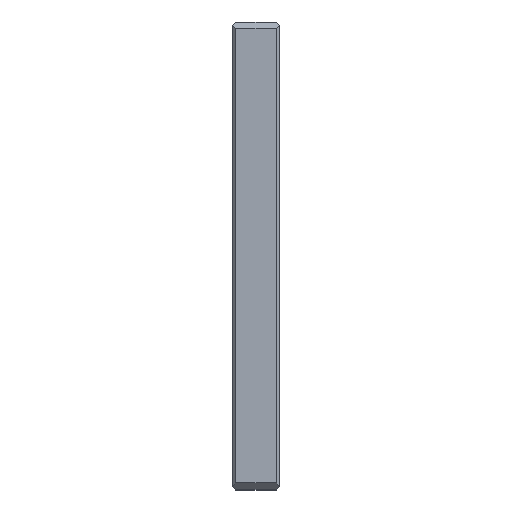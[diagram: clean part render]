
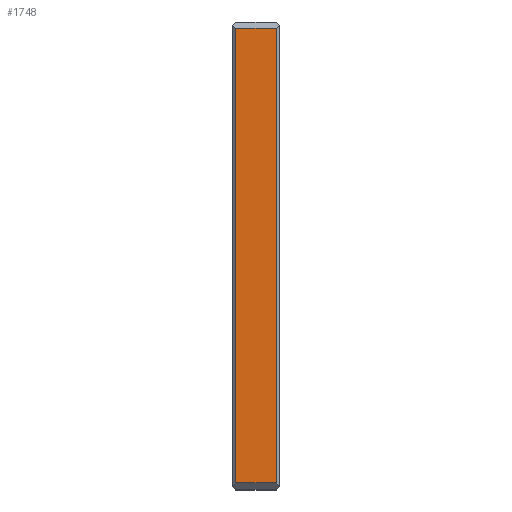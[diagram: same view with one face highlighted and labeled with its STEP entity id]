
A CAD part, top view. The second image highlights one B-rep face of the part: STEP entity #1748.
In plain terms, the highlighted planar face has unit normal (0, 0, 1).
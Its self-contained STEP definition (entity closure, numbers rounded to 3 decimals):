
#466=FACE_OUTER_BOUND($,#669,.T.);
#669=EDGE_LOOP($,(#1471,#1472,#1473,#1474));
#900=LINE($,#2753,#940);
#908=LINE($,#2842,#948);
#913=LINE($,#2852,#953);
#931=LINE($,#2960,#971);
#940=VECTOR($,#2154,13.);
#948=VECTOR($,#2240,146.);
#953=VECTOR($,#2247,13.);
#971=VECTOR($,#2355,146.);
#979=VERTEX_POINT($,#2750);
#980=VERTEX_POINT($,#2752);
#1022=VERTEX_POINT($,#2840);
#1026=VERTEX_POINT($,#2850);
#1152=EDGE_CURVE($,#979,#980,#900,.T.);
#1197=EDGE_CURVE($,#1022,#979,#908,.T.);
#1202=EDGE_CURVE($,#1026,#1022,#913,.T.);
#1257=EDGE_CURVE($,#980,#1026,#931,.T.);
#1471=ORIENTED_EDGE($,*,*,#1197,.F.);
#1472=ORIENTED_EDGE($,*,*,#1202,.F.);
#1473=ORIENTED_EDGE($,*,*,#1257,.F.);
#1474=ORIENTED_EDGE($,*,*,#1152,.F.);
#1725=PLANE($,#1954);
#1748=ADVANCED_FACE($,(#466),#1725,.T.);
#1954=AXIS2_PLACEMENT_3D($,#2965,#2360,#2361);
#2154=DIRECTION($,(1.,0.,0.));
#2240=DIRECTION($,(0.,1.,0.));
#2247=DIRECTION($,(-1.,0.,0.));
#2355=DIRECTION($,(0.,-1.,0.));
#2360=DIRECTION('center_axis',(0.,0.,1.));
#2361=DIRECTION('ref_axis',(0.,-1.,0.));
#2750=CARTESIAN_POINT('',(1.,148.,150.));
#2752=CARTESIAN_POINT('',(14.,148.,150.));
#2753=CARTESIAN_POINT($,(0.,148.,150.));
#2840=CARTESIAN_POINT('',(1.,2.,150.));
#2842=CARTESIAN_POINT($,(1.,112.5,150.));
#2850=CARTESIAN_POINT('',(14.,2.,150.));
#2852=CARTESIAN_POINT($,(0.,2.,150.));
#2960=CARTESIAN_POINT($,(14.,112.5,150.));
#2965=CARTESIAN_POINT('Origin',(0.,150.,150.));
